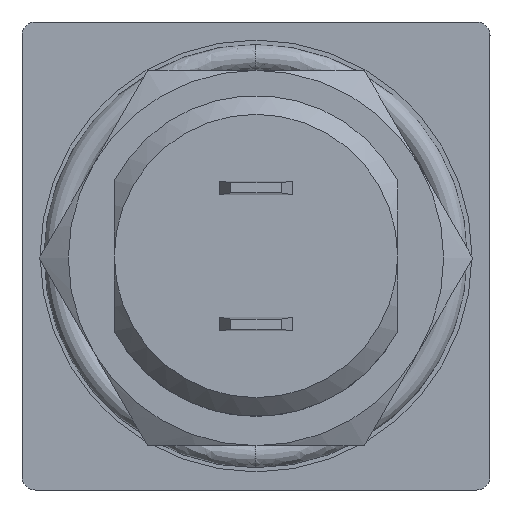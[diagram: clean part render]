
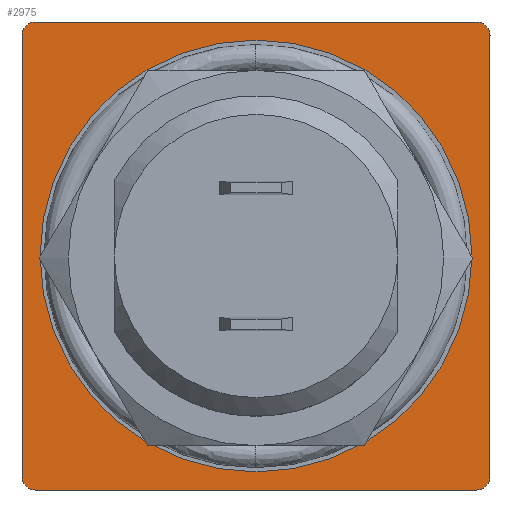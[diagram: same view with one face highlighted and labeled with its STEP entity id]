
A CAD part, front view. The second image highlights one B-rep face of the part: STEP entity #2975.
In plain terms, the highlighted planar face has unit normal (0, -1, 0).
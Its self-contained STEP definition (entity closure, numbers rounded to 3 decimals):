
#61 = CARTESIAN_POINT ( 'NONE',  ( -8.725, 0., 8.225 ) ) ;
#88 = DIRECTION ( 'NONE',  ( 0., 1., 0. ) ) ;
#138 = EDGE_CURVE ( 'NONE', #1669, #704, #3386, .T. ) ;
#148 = ORIENTED_EDGE ( 'NONE', *, *, #1543, .F. ) ;
#231 = DIRECTION ( 'NONE',  ( 0., 1., 0. ) ) ;
#381 = CARTESIAN_POINT ( 'NONE',  ( -8.725, 0., -8.725 ) ) ;
#633 = EDGE_CURVE ( 'NONE', #2090, #4374, #4571, .T. ) ;
#704 = VERTEX_POINT ( 'NONE', #3983 ) ;
#863 = PLANE ( 'NONE',  #2448 ) ;
#962 = CARTESIAN_POINT ( 'NONE',  ( 8.725, 0., 0. ) ) ;
#1374 = ORIENTED_EDGE ( 'NONE', *, *, #6603, .F. ) ;
#1543 = EDGE_CURVE ( 'NONE', #4374, #2090, #3895, .T. ) ;
#1628 = VERTEX_POINT ( 'NONE', #4060 ) ;
#1669 = VERTEX_POINT ( 'NONE', #7063 ) ;
#1730 = DIRECTION ( 'NONE',  ( 0., 1., 0. ) ) ;
#1767 = LINE ( 'NONE', #2416, #8138 ) ;
#1773 = CARTESIAN_POINT ( 'NONE',  ( 8.225, 0., 8.725 ) ) ;
#2090 = VERTEX_POINT ( 'NONE', #2367 ) ;
#2338 = AXIS2_PLACEMENT_3D ( 'NONE', #6373, #2556, #7020 ) ;
#2367 = CARTESIAN_POINT ( 'NONE',  ( 8.05, 0., 0. ) ) ;
#2396 = DIRECTION ( 'NONE',  ( 1., 0., 0. ) ) ;
#2416 = CARTESIAN_POINT ( 'NONE',  ( 0., 0., 8.725 ) ) ;
#2448 = AXIS2_PLACEMENT_3D ( 'NONE', #381, #2830, #3121 ) ;
#2535 = CARTESIAN_POINT ( 'NONE',  ( -8.225, 0., 8.725 ) ) ;
#2556 = DIRECTION ( 'NONE',  ( 0., 1., 0. ) ) ;
#2820 = VERTEX_POINT ( 'NONE', #3530 ) ;
#2830 = DIRECTION ( 'NONE',  ( 0., 1., 0. ) ) ;
#2846 = DIRECTION ( 'NONE',  ( 0., 0., 1. ) ) ;
#2975 = ADVANCED_FACE ( 'NONE', ( #5105, #3238 ), #863, .F. ) ;
#3015 = VERTEX_POINT ( 'NONE', #1773 ) ;
#3121 = DIRECTION ( 'NONE',  ( 0., 0., 1. ) ) ;
#3235 = ORIENTED_EDGE ( 'NONE', *, *, #6509, .F. ) ;
#3238 = FACE_OUTER_BOUND ( 'NONE', #6088, .T. ) ;
#3386 = LINE ( 'NONE', #962, #6787 ) ;
#3451 = CIRCLE ( 'NONE', #4912, 0.5 ) ;
#3500 = CARTESIAN_POINT ( 'NONE',  ( -8.225, 0., -8.725 ) ) ;
#3530 = CARTESIAN_POINT ( 'NONE',  ( -8.725, 0., -8.225 ) ) ;
#3579 = DIRECTION ( 'NONE',  ( 1., 0., 0. ) ) ;
#3608 = CARTESIAN_POINT ( 'NONE',  ( 0., 0., 0. ) ) ;
#3620 = VERTEX_POINT ( 'NONE', #2535 ) ;
#3815 = CARTESIAN_POINT ( 'NONE',  ( 8.225, 0., -8.225 ) ) ;
#3842 = CIRCLE ( 'NONE', #2338, 0.5 ) ;
#3895 = CIRCLE ( 'NONE', #7632, 8.05 ) ;
#3953 = LINE ( 'NONE', #4483, #5428 ) ;
#3967 = CARTESIAN_POINT ( 'NONE',  ( -8.225, 0., -8.225 ) ) ;
#3983 = CARTESIAN_POINT ( 'NONE',  ( 8.725, 0., -8.225 ) ) ;
#4060 = CARTESIAN_POINT ( 'NONE',  ( 8.225, 0., -8.725 ) ) ;
#4354 = AXIS2_PLACEMENT_3D ( 'NONE', #5504, #1730, #6172 ) ;
#4374 = VERTEX_POINT ( 'NONE', #7091 ) ;
#4434 = DIRECTION ( 'NONE',  ( 0., 0., -1. ) ) ;
#4456 = AXIS2_PLACEMENT_3D ( 'NONE', #7053, #7081, #2396 ) ;
#4483 = CARTESIAN_POINT ( 'NONE',  ( 0., 0., -8.725 ) ) ;
#4527 = EDGE_LOOP ( 'NONE', ( #5112, #148 ) ) ;
#4571 = CIRCLE ( 'NONE', #4456, 8.05 ) ;
#4580 = DIRECTION ( 'NONE',  ( 0., 0., -1. ) ) ;
#4614 = CIRCLE ( 'NONE', #4354, 0.5 ) ;
#4689 = ORIENTED_EDGE ( 'NONE', *, *, #6544, .F. ) ;
#4912 = AXIS2_PLACEMENT_3D ( 'NONE', #3967, #231, #4580 ) ;
#5102 = ORIENTED_EDGE ( 'NONE', *, *, #6386, .F. ) ;
#5105 = FACE_BOUND ( 'NONE', #4527, .T. ) ;
#5112 = ORIENTED_EDGE ( 'NONE', *, *, #633, .F. ) ;
#5359 = ORIENTED_EDGE ( 'NONE', *, *, #138, .F. ) ;
#5428 = VECTOR ( 'NONE', #5771, 1000. ) ;
#5504 = CARTESIAN_POINT ( 'NONE',  ( -8.225, 0., 8.225 ) ) ;
#5771 = DIRECTION ( 'NONE',  ( -1., 0., 0. ) ) ;
#6045 = VECTOR ( 'NONE', #2846, 1000. ) ;
#6088 = EDGE_LOOP ( 'NONE', ( #1374, #4689, #3235, #8127, #6638, #5102, #7314, #5359 ) ) ;
#6172 = DIRECTION ( 'NONE',  ( 0., 0., -1. ) ) ;
#6246 = LINE ( 'NONE', #7958, #6045 ) ;
#6329 = EDGE_CURVE ( 'NONE', #704, #1628, #6542, .T. ) ;
#6373 = CARTESIAN_POINT ( 'NONE',  ( 8.225, 0., 8.225 ) ) ;
#6386 = EDGE_CURVE ( 'NONE', #1628, #7139, #3953, .T. ) ;
#6430 = EDGE_CURVE ( 'NONE', #7139, #2820, #3451, .T. ) ;
#6458 = EDGE_CURVE ( 'NONE', #2820, #7338, #6246, .T. ) ;
#6509 = EDGE_CURVE ( 'NONE', #7338, #3620, #4614, .T. ) ;
#6542 = CIRCLE ( 'NONE', #7607, 0.5 ) ;
#6544 = EDGE_CURVE ( 'NONE', #3620, #3015, #1767, .T. ) ;
#6561 = DIRECTION ( 'NONE',  ( 0., 0., -1. ) ) ;
#6603 = EDGE_CURVE ( 'NONE', #3015, #1669, #3842, .T. ) ;
#6638 = ORIENTED_EDGE ( 'NONE', *, *, #6430, .F. ) ;
#6787 = VECTOR ( 'NONE', #6561, 1000. ) ;
#6874 = DIRECTION ( 'NONE',  ( 1., 0., 0. ) ) ;
#7020 = DIRECTION ( 'NONE',  ( 0., 0., -1. ) ) ;
#7053 = CARTESIAN_POINT ( 'NONE',  ( 0., 0., 0. ) ) ;
#7063 = CARTESIAN_POINT ( 'NONE',  ( 8.725, 0., 8.225 ) ) ;
#7081 = DIRECTION ( 'NONE',  ( 0., -1., 0. ) ) ;
#7091 = CARTESIAN_POINT ( 'NONE',  ( -8.05, 0., 0. ) ) ;
#7139 = VERTEX_POINT ( 'NONE', #3500 ) ;
#7314 = ORIENTED_EDGE ( 'NONE', *, *, #6329, .F. ) ;
#7338 = VERTEX_POINT ( 'NONE', #61 ) ;
#7607 = AXIS2_PLACEMENT_3D ( 'NONE', #3815, #88, #4434 ) ;
#7632 = AXIS2_PLACEMENT_3D ( 'NONE', #3608, #8104, #3579 ) ;
#7958 = CARTESIAN_POINT ( 'NONE',  ( -8.725, 0., 0. ) ) ;
#8104 = DIRECTION ( 'NONE',  ( 0., -1., 0. ) ) ;
#8127 = ORIENTED_EDGE ( 'NONE', *, *, #6458, .F. ) ;
#8138 = VECTOR ( 'NONE', #6874, 1000. ) ;
